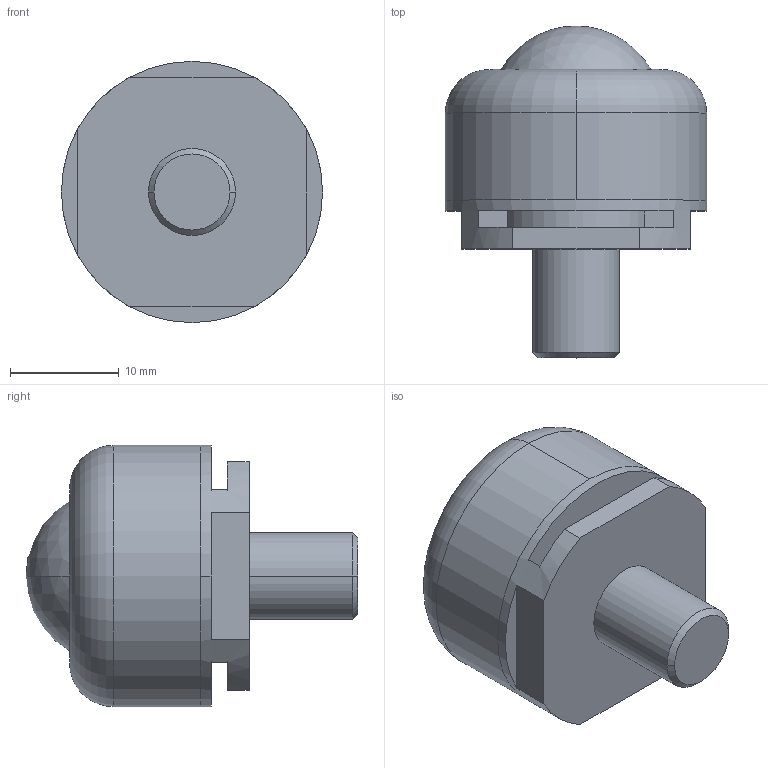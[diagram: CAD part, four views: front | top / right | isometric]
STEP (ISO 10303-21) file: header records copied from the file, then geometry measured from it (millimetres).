
FILE_DESCRIPTION (( 'STEP AP203' ), '1' );
FILE_NAME ('PVPB20B.STEP', '2021-10-08T02:51:22', ( '' ), ( '' ), 'SwSTEP 2.0', 'SolidWorks 2013', '' );
FILE_SCHEMA (( 'CONFIG_CONTROL_DESIGN' ));
Length unit declared in the file: millimetre
Products named in the file (1): PVPB20B
Bounding box: 24 x 30.5 x 24 mm (x, y, z)
Volume: 7617.1 mm3; surface area: 3603.3 mm2
Topology: 2 solids, 2 shells, 37 faces, 90 edges, 59 vertices
Faces by surface type: plane 23, cylinder 8, torus 2, sphere 2, cone 2
Entity records: 1173 total; most frequent: DIRECTION 204, CARTESIAN_POINT 187, ORIENTED_EDGE 180, EDGE_CURVE 90, AXIS2_PLACEMENT_3D 76, VERTEX_POINT 59, LINE 52, VECTOR 52
